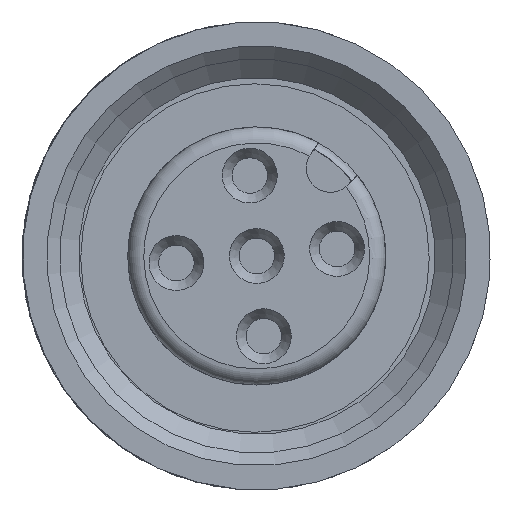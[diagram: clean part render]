
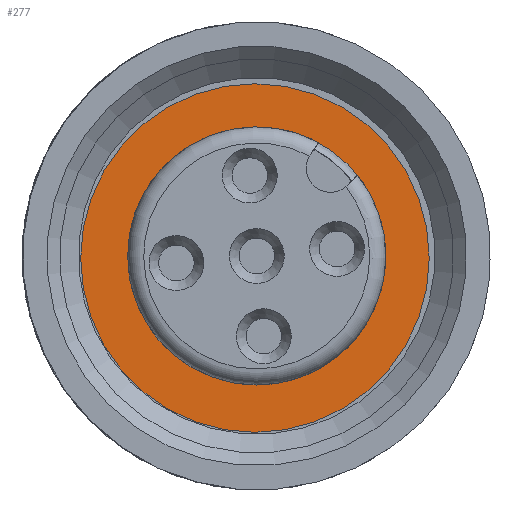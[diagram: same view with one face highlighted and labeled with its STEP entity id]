
A CAD part, front view. The second image highlights one B-rep face of the part: STEP entity #277.
In plain terms, the highlighted planar face has unit normal (0, -1, 0).
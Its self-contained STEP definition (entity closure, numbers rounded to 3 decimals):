
#277 = ADVANCED_FACE( '', ( #632, #633 ), #634, .F. );
#632 = FACE_OUTER_BOUND( '', #1060, .T. );
#633 = FACE_BOUND( '', #1061, .T. );
#634 = PLANE( '', #1062 );
#1060 = EDGE_LOOP( '', ( #1792 ) );
#1061 = EDGE_LOOP( '', ( #1793 ) );
#1062 = AXIS2_PLACEMENT_3D( '', #1794, #1795, #1796 );
#1792 = ORIENTED_EDGE( '', *, *, #2478, .T. );
#1793 = ORIENTED_EDGE( '', *, *, #2278, .T. );
#1794 = CARTESIAN_POINT( '', ( -2.111, -180.346, 1.672 ) );
#1795 = DIRECTION( '', ( 0., 1., 0. ) );
#1796 = DIRECTION( '', ( 1., 0., 0. ) );
#2278 = EDGE_CURVE( '', #2648, #2648, #2649, .T. );
#2478 = EDGE_CURVE( '', #2959, #2959, #2960, .T. );
#2648 = VERTEX_POINT( '', #3160 );
#2649 = CIRCLE( '', #3161, 4. );
#2959 = VERTEX_POINT( '', #4152 );
#2960 = CIRCLE( '', #4153, 5.4 );
#3160 = CARTESIAN_POINT( '', ( -3.972, -180.346, -0.347 ) );
#3161 = AXIS2_PLACEMENT_3D( '', #4500, #4501, #4502 );
#4152 = CARTESIAN_POINT( '', ( -4.179, -180.346, 3.407 ) );
#4153 = AXIS2_PLACEMENT_3D( '', #4738, #4739, #4740 );
#4500 = CARTESIAN_POINT( '', ( 0.013, -180.346, 0.002 ) );
#4501 = DIRECTION( '', ( 0., 1., 0. ) );
#4502 = DIRECTION( '', ( -0.996, 0., -0.087 ) );
#4738 = CARTESIAN_POINT( '', ( -0.043, -180.346, -0.064 ) );
#4739 = DIRECTION( '', ( 0., -1., 0. ) );
#4740 = DIRECTION( '', ( -0.766, 0., 0.643 ) );
